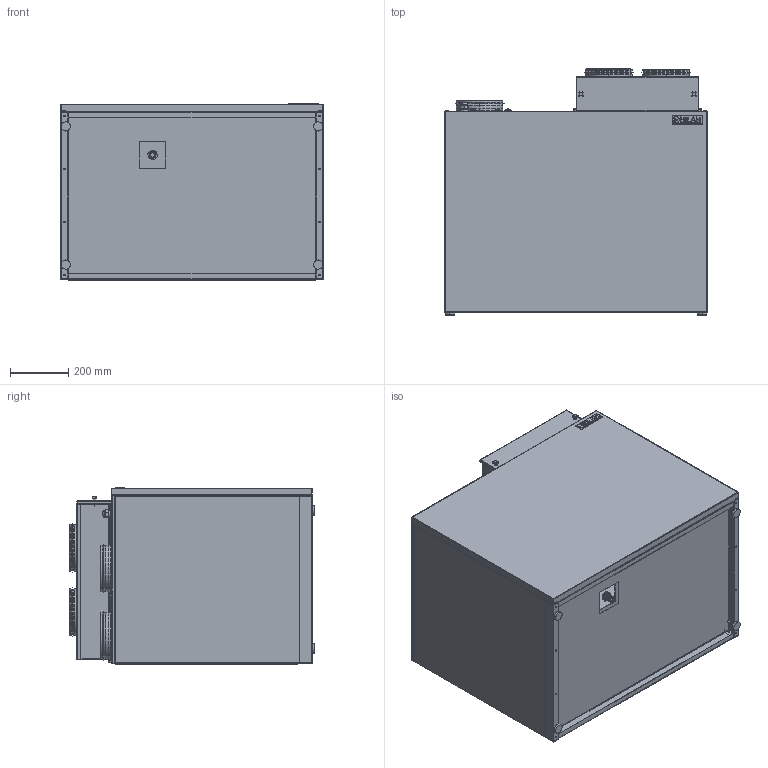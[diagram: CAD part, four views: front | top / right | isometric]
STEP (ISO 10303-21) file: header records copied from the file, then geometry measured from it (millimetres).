
FILE_DESCRIPTION (( 'STEP AP214' ), '1' );
FILE_NAME ('Compact-P_fordamperkasse_rev1.STEP', '2019-06-14T07:04:47', ( '' ), ( '' ), 'SwSTEP 2.0', 'SolidWorks 2017', '' );
FILE_SCHEMA (( 'AUTOMOTIVE_DESIGN' ));
Length unit declared in the file: millimetre
Products named in the file (1): Compact-P_fordamperkasse_rev1
Bounding box: 900 x 844.23 x 604.9 mm (x, y, z)
Volume: 14560244.8 mm3; surface area: 13693202.4 mm2
Topology: 68 solids, 72 shells, 4283 faces, 10898 edges, 6819 vertices
Faces by surface type: plane 1764, cylinder 1733, bspline 648, cone 138
Entity records: 183612 total; most frequent: CARTESIAN_POINT 78356, ORIENTED_EDGE 21672, DIRECTION 19816, EDGE_CURVE 10836, AXIS2_PLACEMENT_3D 6935, VERTEX_POINT 6819, LINE 5946, VECTOR 5946
